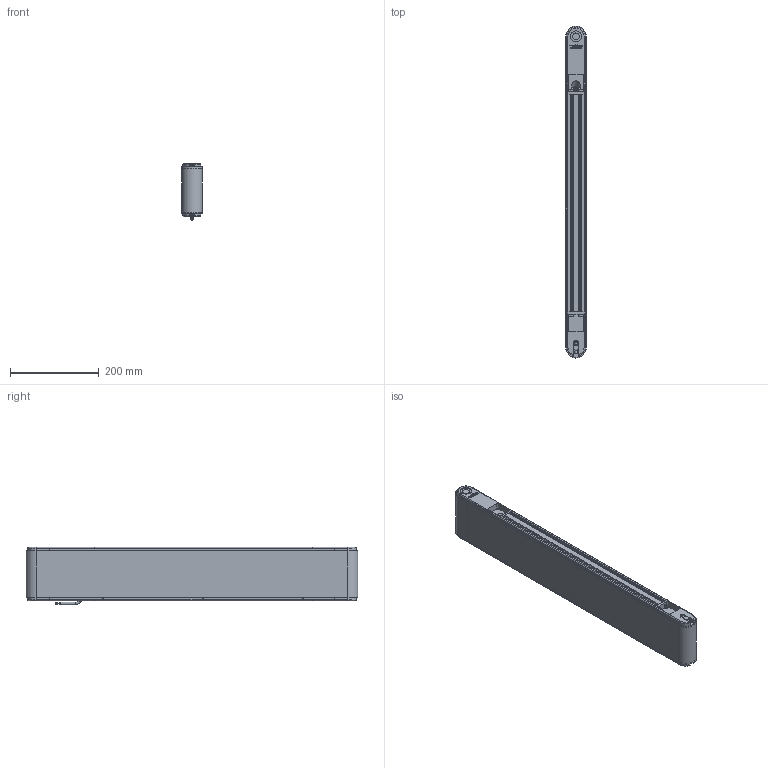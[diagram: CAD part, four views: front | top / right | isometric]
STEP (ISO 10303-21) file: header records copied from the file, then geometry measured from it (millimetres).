
FILE_DESCRIPTION(/* description */ (''),/* implementation_level */ '2;1');
FILE_NAME(/* name */ 'G:\DATEN\CAD\Förderband\Marketing\3D-Modelle (Standard)\FR-40-120\FR-40-120-700-K.stp',/* time_stamp */ '2019-05-08T08:33:24+02:00',/* author */ ('melanie.ochs'),/* organization */ (''),/* preprocessor_version */ 'ST-DEVELOPER v17',/* originating_system */ 'Autodesk Inventor 2019',/* authorisation */ '');
FILE_SCHEMA (('CONFIG_CONTROL_DESIGN'));
Length unit declared in the file: centimetre
Products named in the file (1): FR-40-120-700-K
Bounding box: 46.6 x 746.6 x 128.53 mm (x, y, z)
Volume: 1668065.6 mm3; surface area: 704801 mm2
Topology: 6 solids, 29 shells, 1039 faces, 2831 edges, 1892 vertices
Faces by surface type: plane 533, cylinder 287, bspline 122, cone 72, torus 25
Full cylindrical faces by diameter (mm): 2 x2, 4 x6, 4.3 x4, 4.64 x2, 4.917 x3, 5 x11, 5.5 x8, 6 x6, 6.5 x1, 6.647 x3, 8 x4, 8.3 x6, 8.5 x8, 8.773 x1, 10 x1, 11 x1, 12 x4, 15 x4, 20 x4, 25 x2, 28 x4
Entity records: 35420 total; most frequent: CARTESIAN_POINT 8396, ORIENTED_EDGE 5638, DIRECTION 5111, EDGE_CURVE 2819, VERTEX_POINT 1892, AXIS2_PLACEMENT_3D 1773, LINE 1565, VECTOR 1565
